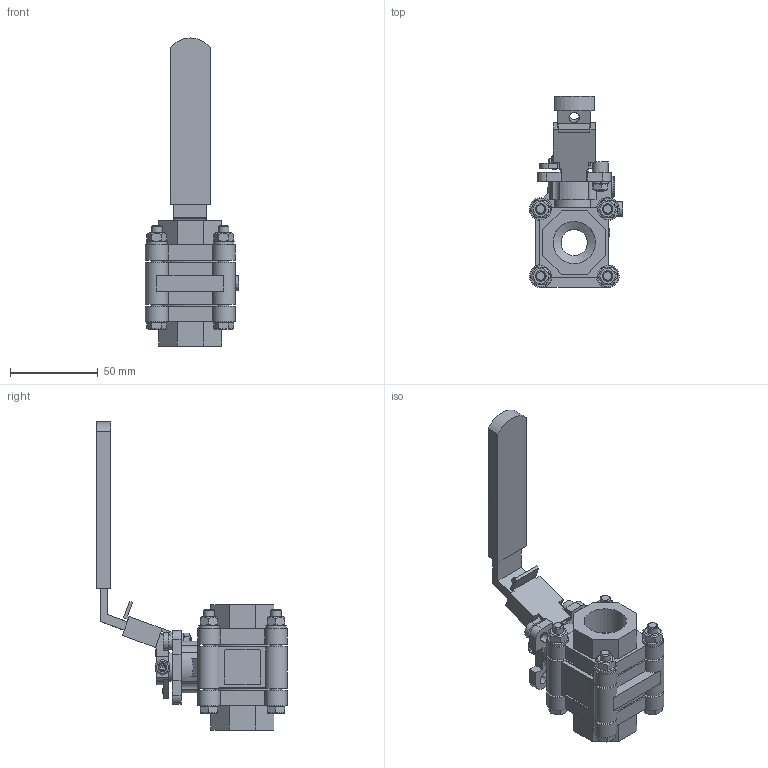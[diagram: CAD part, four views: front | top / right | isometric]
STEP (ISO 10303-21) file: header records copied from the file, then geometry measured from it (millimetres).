
FILE_DESCRIPTION(/* description */ ('Eriks item no: 13278909'),/* implementation_level */ '2;1');
FILE_NAME(/* name */ 'L:\DATA\ENG\Inventor\Econ 3D modellen\kogelkranen\7442\Rubens Versie\7442-DN20-RB.stp',/* time_stamp */ '2023-06-07T22:29:47+02:00',/* author */ ('roger.thijssen'),/* organization */ (''),/* preprocessor_version */ 'ST-DEVELOPER v18',/* originating_system */ 'Autodesk Inventor 2020',/* authorisation */ '');
FILE_SCHEMA (('CONFIG_CONTROL_DESIGN'));
Length unit declared in the file: millimetre
Products named in the file (1): Ball valve, 7442 - 3/4" - RB, (TF4103)
Bounding box: 53.18 x 108.78 x 175.8 mm (x, y, z)
Volume: 143540 mm3; surface area: 51131.4 mm2
Topology: 1 solids, 1 shells, 628 faces, 1669 edges, 1090 vertices
Faces by surface type: plane 389, cylinder 145, cone 62, bspline 30, sphere 1, torus 1
Full cylindrical faces by diameter (mm): 5 x4, 5.5 x1, 6 x9, 7 x12, 8.5 x1, 8.566 x1, 8.9 x4, 9 x1, 12 x1, 15 x1, 23 x1, 24.117 x2, 25 x1, 29 x1, 39.5 x2
Entity records: 20074 total; most frequent: CARTESIAN_POINT 4301, ORIENTED_EDGE 3336, DIRECTION 3146, EDGE_CURVE 1668, AXIS2_PLACEMENT_3D 1099, VERTEX_POINT 1090, LINE 948, VECTOR 948
